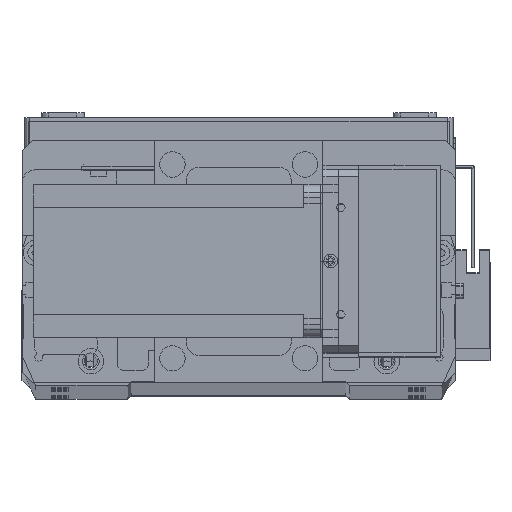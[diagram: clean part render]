
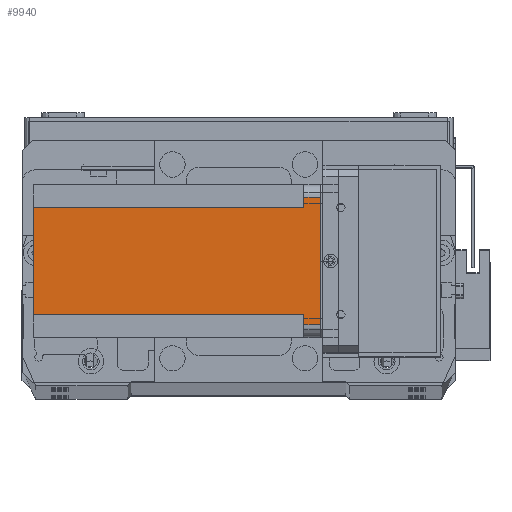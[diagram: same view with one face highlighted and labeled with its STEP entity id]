
A CAD part, top view. The second image highlights one B-rep face of the part: STEP entity #9940.
In plain terms, the highlighted planar face has unit normal (0, 0, 1) as drawn and (-1, 0, 0) by its records, which use the part's own axes.
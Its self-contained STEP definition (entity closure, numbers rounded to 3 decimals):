
#73 = DIRECTION ( 'NONE',  ( 0., 0., 1. ) ) ;
#1006 = CARTESIAN_POINT ( 'NONE',  ( 0., 51., -6.5 ) ) ;
#1118 = CARTESIAN_POINT ( 'NONE',  ( 0., 0., -6.5 ) ) ;
#1756 = ORIENTED_EDGE ( 'NONE', *, *, #19400, .F. ) ;
#1836 = ORIENTED_EDGE ( 'NONE', *, *, #18576, .T. ) ;
#2966 = VERTEX_POINT ( 'NONE', #29489 ) ;
#3433 = CARTESIAN_POINT ( 'NONE',  ( 0., 51., -112.5 ) ) ;
#4149 = DIRECTION ( 'NONE',  ( 0., -1., 0. ) ) ;
#4182 = DIRECTION ( 'NONE',  ( -1., 0., 0. ) ) ;
#4711 = CARTESIAN_POINT ( 'NONE',  ( 0., 0., -112.5 ) ) ;
#5023 = LINE ( 'NONE', #29724, #12310 ) ;
#5056 = LINE ( 'NONE', #25324, #14031 ) ;
#5397 = VERTEX_POINT ( 'NONE', #19178 ) ;
#5449 = DIRECTION ( 'NONE',  ( 0., -1., 0. ) ) ;
#5637 = PLANE ( 'NONE',  #28017 ) ;
#5713 = CARTESIAN_POINT ( 'NONE',  ( 0., 0., 0. ) ) ;
#6808 = LINE ( 'NONE', #21788, #7690 ) ;
#7512 = CARTESIAN_POINT ( 'NONE',  ( 0., 5., -6.5 ) ) ;
#7690 = VECTOR ( 'NONE', #21668, 1000. ) ;
#7778 = VERTEX_POINT ( 'NONE', #1006 ) ;
#8093 = CARTESIAN_POINT ( 'NONE',  ( 0., 55., -6.5 ) ) ;
#8119 = VECTOR ( 'NONE', #28744, 1000. ) ;
#9236 = CARTESIAN_POINT ( 'NONE',  ( 0., 5., 0. ) ) ;
#9940 = ADVANCED_FACE ( 'NONE', ( #21259 ), #5637, .T. ) ;
#11522 = VECTOR ( 'NONE', #34085, 1000. ) ;
#12310 = VECTOR ( 'NONE', #73, 1000. ) ;
#12536 = DIRECTION ( 'NONE',  ( 0., 0., 1. ) ) ;
#13325 = CARTESIAN_POINT ( 'NONE',  ( 0., 0., -112.5 ) ) ;
#14031 = VECTOR ( 'NONE', #12536, 1000. ) ;
#15255 = LINE ( 'NONE', #13325, #8119 ) ;
#15355 = CARTESIAN_POINT ( 'NONE',  ( 0., 55., -112.5 ) ) ;
#15611 = VERTEX_POINT ( 'NONE', #3433 ) ;
#16349 = CARTESIAN_POINT ( 'NONE',  ( 0., 9., -112.5 ) ) ;
#17158 = VERTEX_POINT ( 'NONE', #9236 ) ;
#17320 = EDGE_CURVE ( 'NONE', #5397, #17158, #21609, .T. ) ;
#18427 = EDGE_CURVE ( 'NONE', #28998, #33156, #20738, .T. ) ;
#18536 = EDGE_CURVE ( 'NONE', #28998, #17158, #5056, .T. ) ;
#18576 = EDGE_CURVE ( 'NONE', #5397, #24806, #24374, .T. ) ;
#19086 = EDGE_CURVE ( 'NONE', #7778, #24806, #6808, .T. ) ;
#19171 = EDGE_CURVE ( 'NONE', #15611, #7778, #5023, .T. ) ;
#19178 = CARTESIAN_POINT ( 'NONE',  ( 0., 55., 0. ) ) ;
#19312 = EDGE_CURVE ( 'NONE', #15611, #2966, #15255, .T. ) ;
#19400 = EDGE_CURVE ( 'NONE', #33156, #2966, #31124, .T. ) ;
#19519 = ORIENTED_EDGE ( 'NONE', *, *, #17320, .F. ) ;
#20668 = CARTESIAN_POINT ( 'NONE',  ( 0., 9., -6.5 ) ) ;
#20738 = LINE ( 'NONE', #1118, #26762 ) ;
#21259 = FACE_OUTER_BOUND ( 'NONE', #28873, .T. ) ;
#21492 = ORIENTED_EDGE ( 'NONE', *, *, #19171, .F. ) ;
#21609 = LINE ( 'NONE', #5713, #25262 ) ;
#21668 = DIRECTION ( 'NONE',  ( 0., 1., 0. ) ) ;
#21788 = CARTESIAN_POINT ( 'NONE',  ( 0., 60., -6.5 ) ) ;
#22299 = ORIENTED_EDGE ( 'NONE', *, *, #18427, .F. ) ;
#23378 = ORIENTED_EDGE ( 'NONE', *, *, #18536, .T. ) ;
#24374 = LINE ( 'NONE', #15355, #32748 ) ;
#24806 = VERTEX_POINT ( 'NONE', #8093 ) ;
#25262 = VECTOR ( 'NONE', #5449, 1000. ) ;
#25324 = CARTESIAN_POINT ( 'NONE',  ( 0., 5., -112.5 ) ) ;
#26762 = VECTOR ( 'NONE', #30072, 1000. ) ;
#27770 = ORIENTED_EDGE ( 'NONE', *, *, #19086, .F. ) ;
#28017 = AXIS2_PLACEMENT_3D ( 'NONE', #4711, #4182, #4149 ) ;
#28744 = DIRECTION ( 'NONE',  ( 0., -1., 0. ) ) ;
#28873 = EDGE_LOOP ( 'NONE', ( #22299, #23378, #19519, #1836, #27770, #21492, #33207, #1756 ) ) ;
#28998 = VERTEX_POINT ( 'NONE', #7512 ) ;
#29489 = CARTESIAN_POINT ( 'NONE',  ( 0., 9., -112.5 ) ) ;
#29724 = CARTESIAN_POINT ( 'NONE',  ( 0., 51., -112.5 ) ) ;
#30072 = DIRECTION ( 'NONE',  ( 0., 1., 0. ) ) ;
#31124 = LINE ( 'NONE', #16349, #11522 ) ;
#32748 = VECTOR ( 'NONE', #33100, 1000. ) ;
#33100 = DIRECTION ( 'NONE',  ( 0., 0., -1. ) ) ;
#33156 = VERTEX_POINT ( 'NONE', #20668 ) ;
#33207 = ORIENTED_EDGE ( 'NONE', *, *, #19312, .T. ) ;
#34085 = DIRECTION ( 'NONE',  ( 0., 0., -1. ) ) ;
